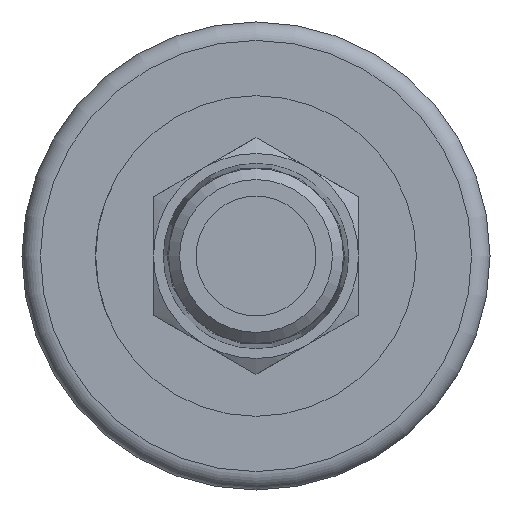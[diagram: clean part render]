
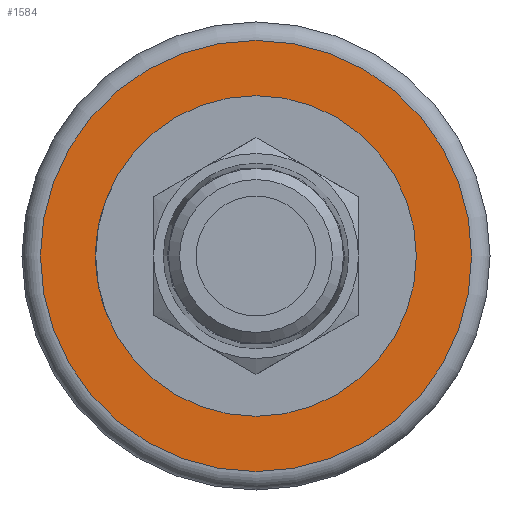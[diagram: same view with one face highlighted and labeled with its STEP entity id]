
A CAD part, left-side view. The second image highlights one B-rep face of the part: STEP entity #1584.
In plain terms, the highlighted planar face has unit normal (-1, 0, 0).
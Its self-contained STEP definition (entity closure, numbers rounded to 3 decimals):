
#37=PLANE('',#1786);
#156=FACE_BOUND('',#342,.T.);
#229=FACE_OUTER_BOUND('',#341,.T.);
#341=EDGE_LOOP('',(#1095));
#342=EDGE_LOOP('',(#1096));
#575=CIRCLE('',#1777,11.7);
#576=CIRCLE('',#1779,8.4);
#677=VERTEX_POINT('',#2621);
#678=VERTEX_POINT('',#2625);
#830=EDGE_CURVE('',#677,#677,#575,.T.);
#831=EDGE_CURVE('',#678,#678,#576,.T.);
#1095=ORIENTED_EDGE('',*,*,#830,.F.);
#1096=ORIENTED_EDGE('',*,*,#831,.T.);
#1584=ADVANCED_FACE('',(#229,#156),#37,.T.);
#1777=AXIS2_PLACEMENT_3D('',#2623,#2088,#2089);
#1779=AXIS2_PLACEMENT_3D('',#2626,#2092,#2093);
#1786=AXIS2_PLACEMENT_3D('',#2637,#2107,#2108);
#2088=DIRECTION('center_axis',(1.,0.,0.));
#2089=DIRECTION('ref_axis',(0.,1.,0.));
#2092=DIRECTION('center_axis',(1.,0.,0.));
#2093=DIRECTION('ref_axis',(0.,1.,0.));
#2107=DIRECTION('center_axis',(-1.,0.,0.));
#2108=DIRECTION('ref_axis',(0.,-1.,0.));
#2621=CARTESIAN_POINT('',(62.85,0.,11.7));
#2623=CARTESIAN_POINT('Origin',(62.85,0.,0.));
#2625=CARTESIAN_POINT('',(62.85,0.,8.4));
#2626=CARTESIAN_POINT('Origin',(62.85,0.,0.));
#2637=CARTESIAN_POINT('Origin',(62.85,10.05,0.));
